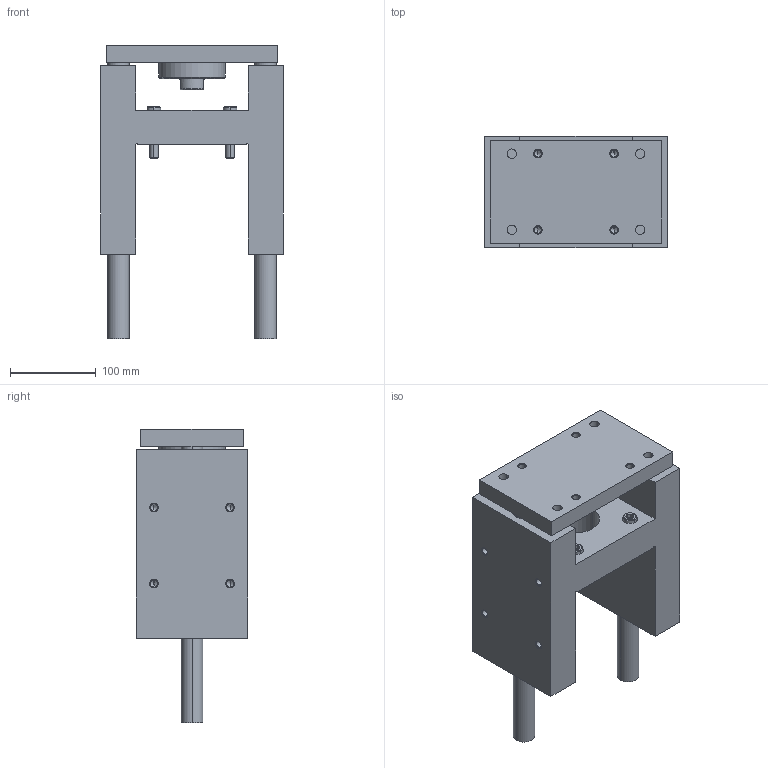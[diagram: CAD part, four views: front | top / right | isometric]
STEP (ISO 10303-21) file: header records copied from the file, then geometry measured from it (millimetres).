
FILE_DESCRIPTION (( 'STEP AP203' ), '1' );
FILE_NAME ('GB100-80.STEP', '2020-04-24T13:42:36', ( '' ), ( '' ), 'SwSTEP 2.0', 'SolidWorks 2019', '' );
FILE_SCHEMA (( 'CONFIG_CONTROL_DESIGN' ));
Length unit declared in the file: millimetre
Products named in the file (1): GB100-80
Bounding box: 213 x 130 x 343 mm (x, y, z)
Volume: 3570911.7 mm3; surface area: 387346 mm2
Topology: 6 solids, 6 shells, 329 faces, 728 edges, 412 vertices
Faces by surface type: cone 134, cylinder 98, plane 97
Entity records: 9631 total; most frequent: CARTESIAN_POINT 2242, DIRECTION 1662, ORIENTED_EDGE 1392, EDGE_CURVE 696, AXIS2_PLACEMENT_3D 664, VERTEX_POINT 412, EDGE_LOOP 392, LINE 334
